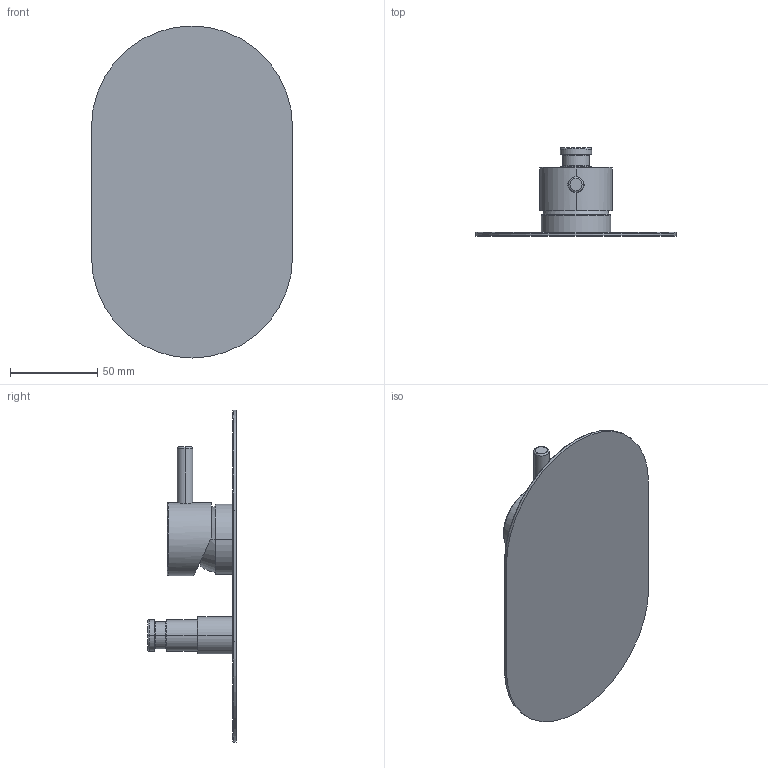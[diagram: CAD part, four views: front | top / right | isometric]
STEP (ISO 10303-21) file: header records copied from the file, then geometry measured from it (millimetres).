
FILE_DESCRIPTION((''),'2;1');
FILE_NAME('12010_SW0001','2025-02-26T16:33:12',('carloff'),(''),'CREO PARAMETRIC BY PTC INC, 2022014','CREO PARAMETRIC BY PTC INC, 2022014','');
FILE_SCHEMA(('CONFIG_CONTROL_DESIGN'));
Length unit declared in the file: millimetre
Products named in the file (1): 12010_SW0001
Bounding box: 115 x 50.6 x 190 mm (x, y, z)
Volume: 86606.2 mm3; surface area: 54998 mm2
Topology: 1 solids, 1 shells, 192 faces, 485 edges, 299 vertices
Faces by surface type: cylinder 65, plane 63, cone 21, bspline 19, torus 16, sphere 8
Entity records: 7613 total; most frequent: CARTESIAN_POINT 3068, ORIENTED_EDGE 966, DIRECTION 914, EDGE_CURVE 483, AXIS2_PLACEMENT_3D 354, VERTEX_POINT 299, VECTOR 206, LINE 206
